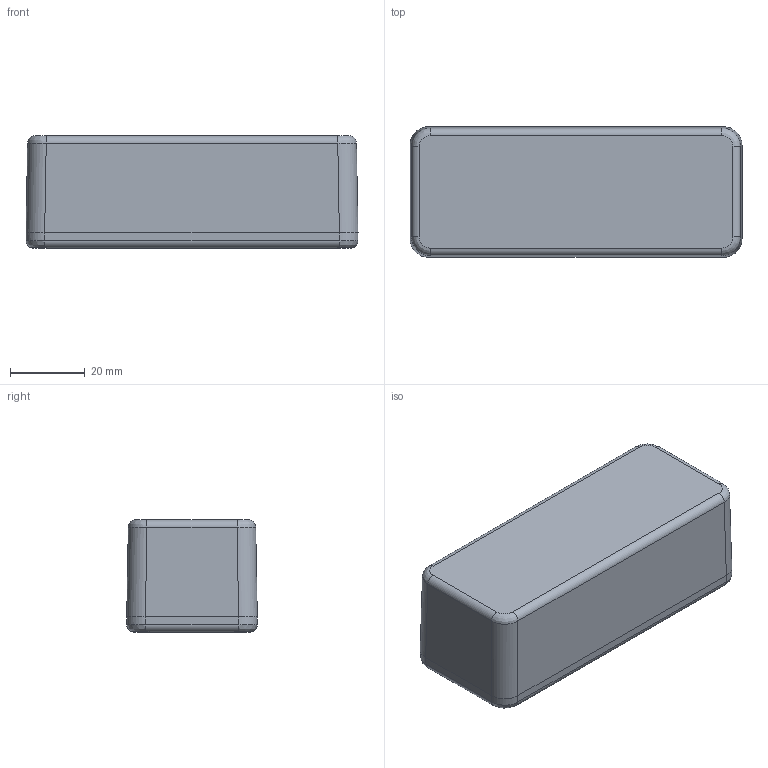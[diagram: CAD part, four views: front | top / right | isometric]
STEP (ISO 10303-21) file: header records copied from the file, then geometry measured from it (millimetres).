
FILE_DESCRIPTION(/* description */ (''),/* implementation_level */ '2;1');
FILE_NAME(/* name */ 'E:\Eng\Customer Service\Drawings\new 1550\STEP\1550A\1550A.iam.stp',/* time_stamp */ '2014-10-29T10:13:36-04:00',/* author */ ('fwarzocha'),/* organization */ (''),/* preprocessor_version */ 'ST-DEVELOPER v15.2',/* originating_system */ 'Autodesk Inventor 2014',/* authorisation */ '');
FILE_SCHEMA (('AUTOMOTIVE_DESIGN { 1 0 10303 214 3 1 1 }'));
Length unit declared in the file: millimetre
Products named in the file (4): 1550A BOX v11; 1550A LID v11; SC1550 (screw M3.5-0.6X 12mm FH); 1550A
Bounding box: 89 x 35 x 30.1 mm (x, y, z)
Volume: 24741.5 mm3; surface area: 27038.4 mm2
Topology: 6 solids, 6 shells, 827 faces, 2234 edges, 1468 vertices
Faces by surface type: bspline 356, plane 351, cylinder 68, cone 46, torus 6
Full cylindrical faces by diameter (mm): 3 x4, 3.43 x4, 4.1 x4
Entity records: 38696 total; most frequent: CARTESIAN_POINT 22114, ORIENTED_EDGE 3970, DIRECTION 2368, EDGE_CURVE 1985, VERTEX_POINT 1319, LINE 1078, VECTOR 1078, EDGE_LOOP 840
